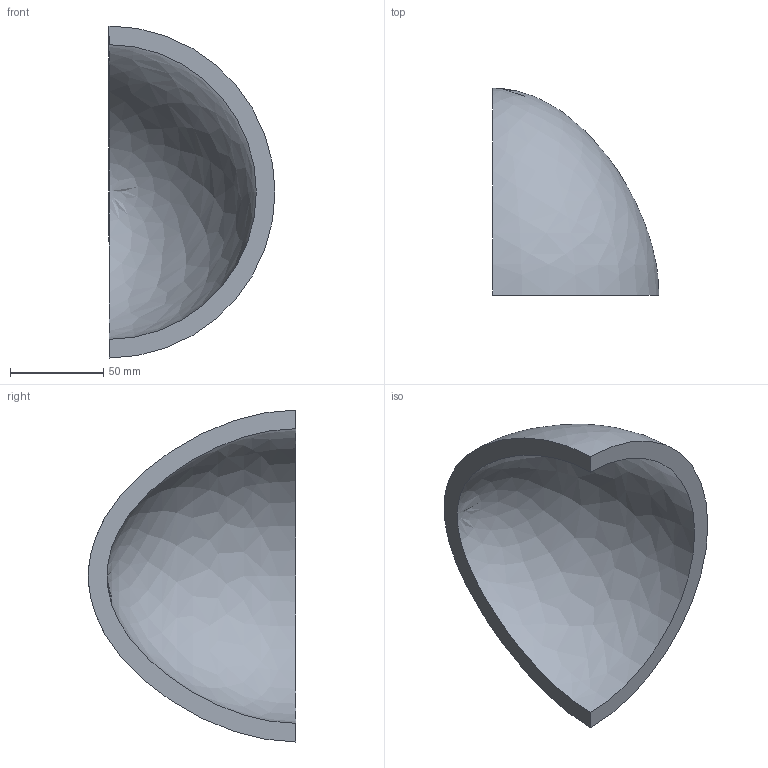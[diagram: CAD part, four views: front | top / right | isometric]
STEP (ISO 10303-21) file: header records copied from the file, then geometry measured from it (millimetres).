
FILE_DESCRIPTION(('CATIA V5 STEP Exchange'),'2;1');
FILE_NAME('C:\_Andres\UNIVERSIDAD\IQS\ASIGNATURAS\DAO\EXF\EXF-16172c\2inicio\Espinel_Roig_Ej10_v11.stp','2017-03-05T22:31:10+00:00',('none'),('none'),'CATIA Version 5-6 Release 2014 SP1 HF18','CATIA V5 STEP AP203','none');
FILE_SCHEMA(('CONFIG_CONTROL_DESIGN'));
Length unit declared in the file: millimetre
Products named in the file (1): Espinel_Roig_Ej10_v11
Bounding box: 89 x 111 x 178 mm (x, y, z)
Volume: 249702 mm3; surface area: 55622.8 mm2
Topology: 1 solids, 1 shells, 4 faces, 10 edges, 6 vertices
Faces by surface type: revolution 2, plane 2
Entity records: 239 total; most frequent: CARTESIAN_POINT 117, ORIENTED_EDGE 16, DIRECTION 10, EDGE_CURVE 8, B_SPLINE_CURVE_WITH_KNOTS 6, VERTEX_POINT 6, AXIS2_PLACEMENT_3D 5, ADVANCED_FACE 4
